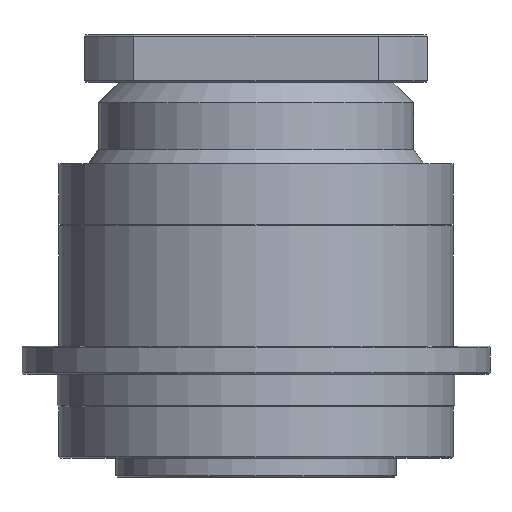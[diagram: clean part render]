
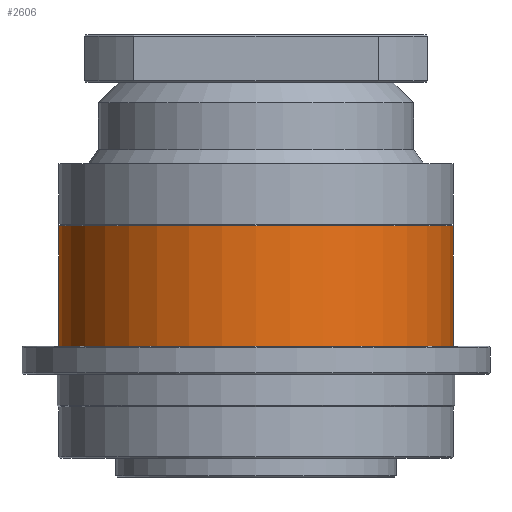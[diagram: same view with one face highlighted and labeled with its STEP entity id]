
A CAD part, front view. The second image highlights one B-rep face of the part: STEP entity #2606.
In plain terms, the highlighted cylindrical face has radius 126.5 mm (diameter 253 mm), a full revolution.
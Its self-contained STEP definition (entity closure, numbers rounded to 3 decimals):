
#2064=CARTESIAN_POINT('',(126.5,0.,84.0));
#2065=VERTEX_POINT('',#2064);
#2066=CARTESIAN_POINT('',(0.0,0.0,84.0));
#2067=DIRECTION('',(0.0,0.0,-1.0));
#2068=DIRECTION('',(-1.0,0.0,0.0));
#2069=AXIS2_PLACEMENT_3D('',#2066,#2067,#2068);
#2070=CIRCLE('',#2069,126.5);
#2071=EDGE_CURVE('',#2065,#2065,#2070,.T.);
#2563=CARTESIAN_POINT('',(126.5,0.,161.0));
#2564=VERTEX_POINT('',#2563);
#2565=CARTESIAN_POINT('',(0.0,0.0,161.0));
#2566=DIRECTION('',(0.0,0.0,1.0));
#2567=DIRECTION('',(-1.0,0.0,0.0));
#2568=AXIS2_PLACEMENT_3D('',#2565,#2566,#2567);
#2569=CIRCLE('',#2568,126.5);
#2570=EDGE_CURVE('',#2564,#2564,#2569,.T.);
#2595=CARTESIAN_POINT('',(0.0,0.0,84.0));
#2596=DIRECTION('',(0.0,0.0,1.0));
#2597=DIRECTION('',(-1.0,0.0,0.0));
#2598=AXIS2_PLACEMENT_3D('',#2595,#2596,#2597);
#2599=CYLINDRICAL_SURFACE('',#2598,126.5);
#2600=ORIENTED_EDGE('',*,*,#2071,.F.);
#2601=EDGE_LOOP('',(#2600));
#2602=FACE_OUTER_BOUND('',#2601,.T.);
#2603=ORIENTED_EDGE('',*,*,#2570,.F.);
#2604=EDGE_LOOP('',(#2603));
#2605=FACE_BOUND('',#2604,.T.);
#2606=ADVANCED_FACE('',(#2602,#2605),#2599,.T.);
